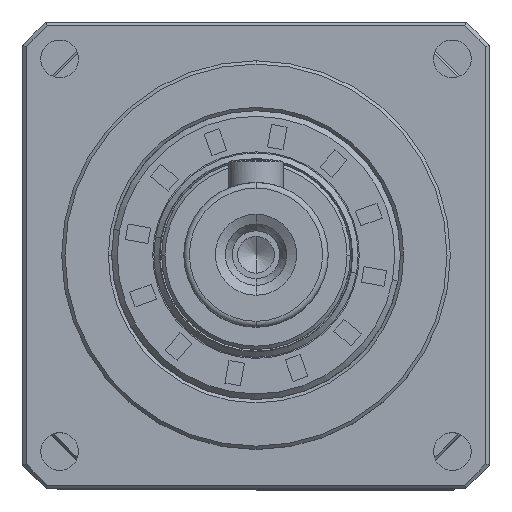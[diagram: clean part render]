
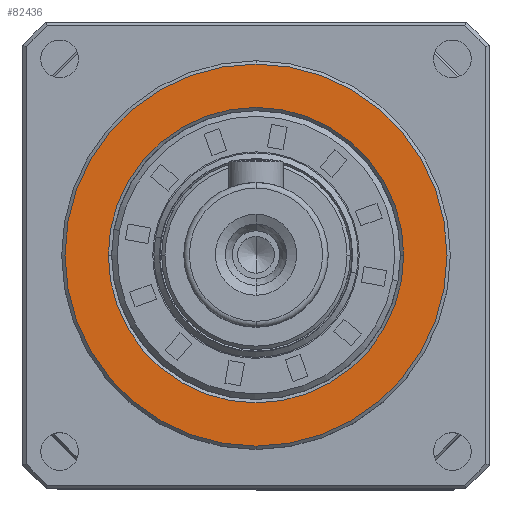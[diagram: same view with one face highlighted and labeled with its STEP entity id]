
A CAD part, top view. The second image highlights one B-rep face of the part: STEP entity #82436.
In plain terms, the highlighted planar face has unit normal (0, 0, 1).
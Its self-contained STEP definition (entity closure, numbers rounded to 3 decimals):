
#3126 = AXIS2_PLACEMENT_3D ( 'NONE', #87523, #47093, #6805 ) ;
#4461 = CARTESIAN_POINT ( 'NONE',  ( 35.045, 30.778, 66.422 ) ) ;
#6805 = DIRECTION ( 'NONE',  ( 1., 0., 0. ) ) ;
#10241 = VERTEX_POINT ( 'NONE', #37035 ) ;
#11592 = ORIENTED_EDGE ( 'NONE', *, *, #84792, .F. ) ;
#13501 = CIRCLE ( 'NONE', #76932, 13.3 ) ;
#19811 = CARTESIAN_POINT ( 'NONE',  ( 48.345, 13.578, 66.422 ) ) ;
#23236 = DIRECTION ( 'NONE',  ( 0., 0., -1. ) ) ;
#23712 = EDGE_CURVE ( 'NONE', #30807, #67786, #13501, .T. ) ;
#25987 = CARTESIAN_POINT ( 'NONE',  ( 48.345, 30.778, 66.422 ) ) ;
#27452 = CIRCLE ( 'NONE', #57910, 17.2 ) ;
#28759 = DIRECTION ( 'NONE',  ( 0., 0., -1. ) ) ;
#30807 = VERTEX_POINT ( 'NONE', #4461 ) ;
#32744 = DIRECTION ( 'NONE',  ( 1., 0., 0. ) ) ;
#35254 = CIRCLE ( 'NONE', #3126, 13.3 ) ;
#36542 = ORIENTED_EDGE ( 'NONE', *, *, #84385, .T. ) ;
#37035 = CARTESIAN_POINT ( 'NONE',  ( 48.345, 47.978, 66.422 ) ) ;
#38496 = FACE_OUTER_BOUND ( 'NONE', #61567, .T. ) ;
#39328 = CARTESIAN_POINT ( 'NONE',  ( 48.345, 30.778, 66.422 ) ) ;
#40536 = EDGE_CURVE ( 'NONE', #71984, #10241, #27452, .T. ) ;
#46096 = DIRECTION ( 'NONE',  ( 0., 1., 0. ) ) ;
#47093 = DIRECTION ( 'NONE',  ( 0., 0., -1. ) ) ;
#49414 = AXIS2_PLACEMENT_3D ( 'NONE', #39328, #86542, #46096 ) ;
#53284 = EDGE_LOOP ( 'NONE', ( #36542, #82144 ) ) ;
#56440 = FACE_BOUND ( 'NONE', #53284, .T. ) ;
#57910 = AXIS2_PLACEMENT_3D ( 'NONE', #69158, #28759, #75923 ) ;
#61567 = EDGE_LOOP ( 'NONE', ( #11592, #61626 ) ) ;
#61626 = ORIENTED_EDGE ( 'NONE', *, *, #40536, .F. ) ;
#63639 = CARTESIAN_POINT ( 'NONE',  ( 48.345, 30.778, 66.422 ) ) ;
#67786 = VERTEX_POINT ( 'NONE', #78777 ) ;
#69158 = CARTESIAN_POINT ( 'NONE',  ( 48.345, 30.778, 66.422 ) ) ;
#70402 = DIRECTION ( 'NONE',  ( 1., 0., 0. ) ) ;
#71984 = VERTEX_POINT ( 'NONE', #19811 ) ;
#73151 = DIRECTION ( 'NONE',  ( 0., 0., 1. ) ) ;
#75923 = DIRECTION ( 'NONE',  ( 0., 1., 0. ) ) ;
#76932 = AXIS2_PLACEMENT_3D ( 'NONE', #63639, #23236, #70402 ) ;
#78777 = CARTESIAN_POINT ( 'NONE',  ( 61.645, 30.778, 66.422 ) ) ;
#79347 = PLANE ( 'NONE',  #84848 ) ;
#82144 = ORIENTED_EDGE ( 'NONE', *, *, #23712, .T. ) ;
#82436 = ADVANCED_FACE ( 'NONE', ( #38496, #56440 ), #79347, .T. ) ;
#83682 = CIRCLE ( 'NONE', #49414, 17.2 ) ;
#84385 = EDGE_CURVE ( 'NONE', #67786, #30807, #35254, .T. ) ;
#84792 = EDGE_CURVE ( 'NONE', #10241, #71984, #83682, .T. ) ;
#84848 = AXIS2_PLACEMENT_3D ( 'NONE', #25987, #73151, #32744 ) ;
#86542 = DIRECTION ( 'NONE',  ( 0., 0., -1. ) ) ;
#87523 = CARTESIAN_POINT ( 'NONE',  ( 48.345, 30.778, 66.422 ) ) ;
